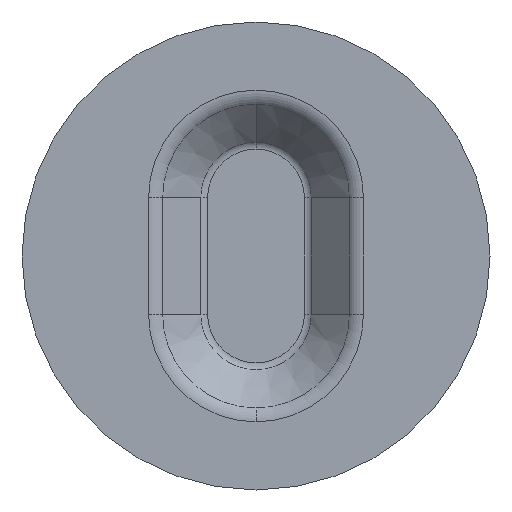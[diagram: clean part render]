
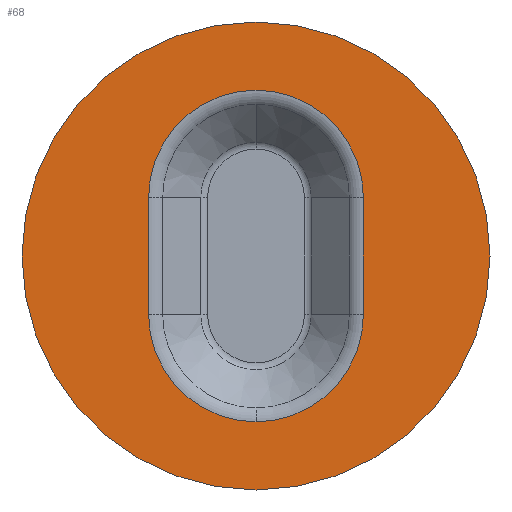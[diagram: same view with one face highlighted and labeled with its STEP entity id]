
A CAD part, front view. The second image highlights one B-rep face of the part: STEP entity #68.
In plain terms, the highlighted planar face has unit normal (0, -1, 0).
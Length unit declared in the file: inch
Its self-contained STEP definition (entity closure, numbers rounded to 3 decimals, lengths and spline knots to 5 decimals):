
#12 = DIRECTION ( 'NONE',  ( 0., 0., -1. ) ) ;
#16 = DIRECTION ( 'NONE',  ( 0., -1., 0. ) ) ;
#19 = CIRCLE ( 'NONE', #602, 0.4589 ) ;
#25 = LINE ( 'NONE', #110, #551 ) ;
#27 = VERTEX_POINT ( 'NONE', #271 ) ;
#44 = VERTEX_POINT ( 'NONE', #299 ) ;
#46 = ORIENTED_EDGE ( 'NONE', *, *, #810, .F. ) ;
#59 = ORIENTED_EDGE ( 'NONE', *, *, #1062, .F. ) ;
#60 = DIRECTION ( 'NONE',  ( 0., 0., -1. ) ) ;
#68 = ADVANCED_FACE ( 'NONE', ( #88, #414 ), #179, .T. ) ;
#77 = DIRECTION ( 'NONE',  ( 0., 0., -1. ) ) ;
#88 = FACE_BOUND ( 'NONE', #534, .T. ) ;
#98 = CIRCLE ( 'NONE', #678, 1. ) ;
#104 = CARTESIAN_POINT ( 'NONE',  ( 0.4589, -0.242, -0.0604 ) ) ;
#110 = CARTESIAN_POINT ( 'NONE',  ( -0.4589, -0.242, -0.3104 ) ) ;
#124 = VERTEX_POINT ( 'NONE', #104 ) ;
#171 = LINE ( 'NONE', #981, #616 ) ;
#179 = PLANE ( 'NONE',  #919 ) ;
#193 = CARTESIAN_POINT ( 'NONE',  ( 0., -0.242, -0.3104 ) ) ;
#201 = CIRCLE ( 'NONE', #245, 0.4589 ) ;
#208 = CARTESIAN_POINT ( 'NONE',  ( 0., -0.242, -0.3104 ) ) ;
#214 = EDGE_CURVE ( 'NONE', #44, #477, #830, .T. ) ;
#224 = VERTEX_POINT ( 'NONE', #251 ) ;
#227 = DIRECTION ( 'NONE',  ( 0., -1., 0. ) ) ;
#245 = AXIS2_PLACEMENT_3D ( 'NONE', #842, #614, #1024 ) ;
#251 = CARTESIAN_POINT ( 'NONE',  ( -0.4589, -0.242, -0.0604 ) ) ;
#271 = CARTESIAN_POINT ( 'NONE',  ( 0., -0.242, -1.3104 ) ) ;
#285 = EDGE_CURVE ( 'NONE', #27, #295, #526, .T. ) ;
#295 = VERTEX_POINT ( 'NONE', #680 ) ;
#299 = CARTESIAN_POINT ( 'NONE',  ( -0.4589, -0.242, -0.5604 ) ) ;
#336 = ORIENTED_EDGE ( 'NONE', *, *, #689, .F. ) ;
#337 = DIRECTION ( 'NONE',  ( 0., -1., 0. ) ) ;
#394 = EDGE_CURVE ( 'NONE', #295, #27, #98, .T. ) ;
#414 = FACE_OUTER_BOUND ( 'NONE', #456, .T. ) ;
#432 = DIRECTION ( 'NONE',  ( 0., 0., -1. ) ) ;
#446 = DIRECTION ( 'NONE',  ( 0., -1., 0. ) ) ;
#456 = EDGE_LOOP ( 'NONE', ( #955, #854 ) ) ;
#477 = VERTEX_POINT ( 'NONE', #561 ) ;
#526 = CIRCLE ( 'NONE', #566, 1. ) ;
#534 = EDGE_LOOP ( 'NONE', ( #336, #59, #886, #617, #46 ) ) ;
#551 = VECTOR ( 'NONE', #432, 39.37008 ) ;
#561 = CARTESIAN_POINT ( 'NONE',  ( 0., -0.242, -1.01929 ) ) ;
#563 = DIRECTION ( 'NONE',  ( 0., 0., -1. ) ) ;
#566 = AXIS2_PLACEMENT_3D ( 'NONE', #193, #16, #12 ) ;
#570 = CARTESIAN_POINT ( 'NONE',  ( 0.4589, -0.242, -0.5604 ) ) ;
#572 = DIRECTION ( 'NONE',  ( 0., -1., 0. ) ) ;
#581 = CARTESIAN_POINT ( 'NONE',  ( 0., -0.242, -0.0604 ) ) ;
#602 = AXIS2_PLACEMENT_3D ( 'NONE', #581, #446, #939 ) ;
#614 = DIRECTION ( 'NONE',  ( 0., -1., 0. ) ) ;
#616 = VECTOR ( 'NONE', #839, 39.37008 ) ;
#617 = ORIENTED_EDGE ( 'NONE', *, *, #873, .F. ) ;
#678 = AXIS2_PLACEMENT_3D ( 'NONE', #208, #227, #60 ) ;
#680 = CARTESIAN_POINT ( 'NONE',  ( 0., -0.242, 0.6896 ) ) ;
#684 = VERTEX_POINT ( 'NONE', #570 ) ;
#689 = EDGE_CURVE ( 'NONE', #684, #124, #171, .T. ) ;
#741 = CARTESIAN_POINT ( 'NONE',  ( 0., -0.242, -0.3104 ) ) ;
#810 = EDGE_CURVE ( 'NONE', #124, #224, #19, .T. ) ;
#830 = CIRCLE ( 'NONE', #1069, 0.4589 ) ;
#839 = DIRECTION ( 'NONE',  ( 0., 0., 1. ) ) ;
#842 = CARTESIAN_POINT ( 'NONE',  ( 0., -0.242, -0.5604 ) ) ;
#854 = ORIENTED_EDGE ( 'NONE', *, *, #394, .T. ) ;
#873 = EDGE_CURVE ( 'NONE', #224, #44, #25, .T. ) ;
#886 = ORIENTED_EDGE ( 'NONE', *, *, #214, .F. ) ;
#919 = AXIS2_PLACEMENT_3D ( 'NONE', #741, #572, #563 ) ;
#939 = DIRECTION ( 'NONE',  ( 0., 0., -1. ) ) ;
#955 = ORIENTED_EDGE ( 'NONE', *, *, #285, .T. ) ;
#981 = CARTESIAN_POINT ( 'NONE',  ( 0.4589, -0.242, -0.3104 ) ) ;
#1024 = DIRECTION ( 'NONE',  ( 0., 0., -1. ) ) ;
#1062 = EDGE_CURVE ( 'NONE', #477, #684, #201, .T. ) ;
#1065 = CARTESIAN_POINT ( 'NONE',  ( 0., -0.242, -0.5604 ) ) ;
#1069 = AXIS2_PLACEMENT_3D ( 'NONE', #1065, #337, #77 ) ;
